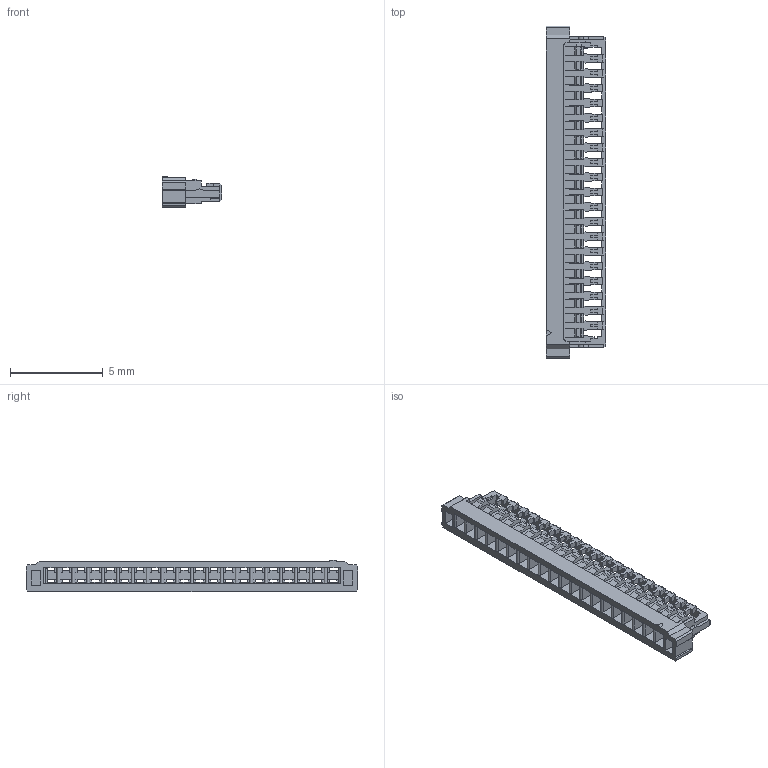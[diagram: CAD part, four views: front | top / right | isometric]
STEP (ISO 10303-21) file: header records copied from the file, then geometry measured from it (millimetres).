
FILE_DESCRIPTION((''),'2;1');
FILE_NAME('SCT0802H-20','2023-04-10T18:52:09',('Administrator'),(''),'CREO PARAMETRIC BY PTC INC, 2018050','CREO PARAMETRIC BY PTC INC, 2018050','');
FILE_SCHEMA(('CONFIG_CONTROL_DESIGN'));
Length unit declared in the file: millimetre
Products named in the file (1): SCT0802H-20
Bounding box: 3.2 x 17.9 x 1.7 mm (x, y, z)
Volume: 29.6 mm3; surface area: 275.6 mm2
Topology: 1 solids, 1 shells, 1032 faces, 3114 edges, 2005 vertices
Faces by surface type: plane 965, cylinder 67
Entity records: 34288 total; most frequent: ORIENTED_EDGE 6228, CARTESIAN_POINT 6151, DIRECTION 5350, EDGE_CURVE 3114, VECTOR 2942, LINE 2942, VERTEX_POINT 2005, AXIS2_PLACEMENT_3D 1204
